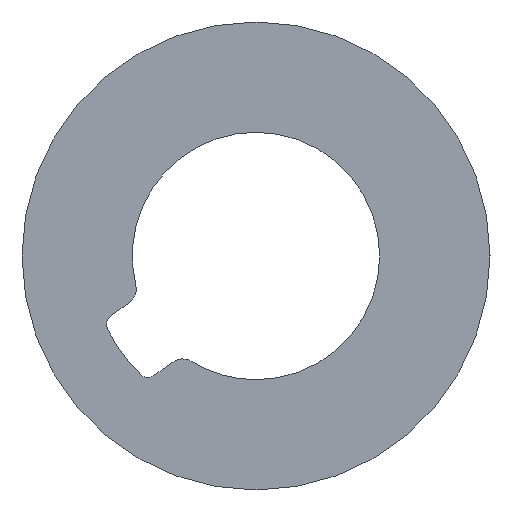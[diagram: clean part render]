
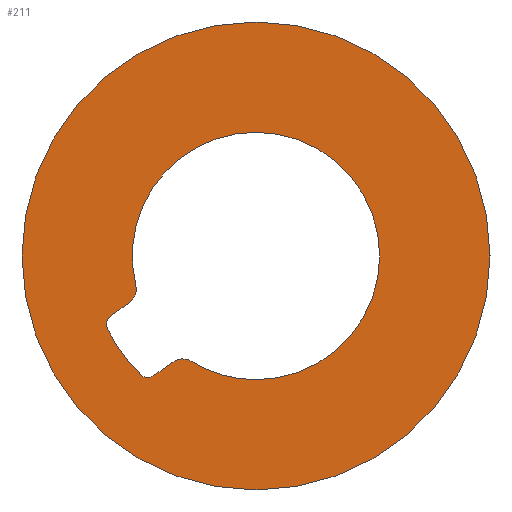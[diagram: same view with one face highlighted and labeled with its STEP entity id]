
A CAD part, left-side view. The second image highlights one B-rep face of the part: STEP entity #211.
In plain terms, the highlighted planar face has unit normal (-1, 0, 0).
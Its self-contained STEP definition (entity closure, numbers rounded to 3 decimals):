
#5 = ORIENTED_EDGE ( 'NONE', *, *, #261, .T. ) ;
#6 = ORIENTED_EDGE ( 'NONE', *, *, #268, .F. ) ;
#7 = ORIENTED_EDGE ( 'NONE', *, *, #288, .F. ) ;
#8 = ORIENTED_EDGE ( 'NONE', *, *, #272, .T. ) ;
#9 = ORIENTED_EDGE ( 'NONE', *, *, #275, .T. ) ;
#10 = ORIENTED_EDGE ( 'NONE', *, *, #289, .T. ) ;
#11 = ORIENTED_EDGE ( 'NONE', *, *, #279, .T. ) ;
#12 = ORIENTED_EDGE ( 'NONE', *, *, #291, .T. ) ;
#17 = ORIENTED_EDGE ( 'NONE', *, *, #293, .T. ) ;
#18 = ORIENTED_EDGE ( 'NONE', *, *, #262, .T. ) ;
#19 = ORIENTED_EDGE ( 'NONE', *, *, #292, .T. ) ;
#22 = ORIENTED_EDGE ( 'NONE', *, *, #294, .T. ) ;
#23 = ORIENTED_EDGE ( 'NONE', *, *, #290, .T. ) ;
#37 = CIRCLE ( 'NONE', #222, 0.3 ) ;
#40 = CIRCLE ( 'NONE', #223, 4.95 ) ;
#43 = CIRCLE ( 'NONE', #224, 0.3 ) ;
#44 = VECTOR ( 'NONE', #472, 1000. ) ;
#48 = CIRCLE ( 'NONE', #228, 0.5 ) ;
#49 = LINE ( 'NONE', #469, #44 ) ;
#50 = CIRCLE ( 'NONE', #232, 0.5 ) ;
#51 = CIRCLE ( 'NONE', #225, 7. ) ;
#65 = CIRCLE ( 'NONE', #234, 3.7 ) ;
#74 = CIRCLE ( 'NONE', #236, 3.7 ) ;
#78 = CIRCLE ( 'NONE', #238, 3.7 ) ;
#87 = CIRCLE ( 'NONE', #240, 7. ) ;
#98 = CIRCLE ( 'NONE', #243, 0.3 ) ;
#101 = VECTOR ( 'NONE', #375, 1000. ) ;
#102 = LINE ( 'NONE', #376, #101 ) ;
#122 = FACE_BOUND ( 'NONE', #146, .T. ) ;
#123 = FACE_OUTER_BOUND ( 'NONE', #147, .T. ) ;
#146 = EDGE_LOOP ( 'NONE', ( #5, #10, #9, #8, #11, #23, #12, #19, #18, #17, #22 ) ) ;
#147 = EDGE_LOOP ( 'NONE', ( #7, #6 ) ) ;
#211 = ADVANCED_FACE ( 'NONE', ( #123, #122 ), #402, .F. ) ;
#222 = AXIS2_PLACEMENT_3D ( 'NONE', #521, #522, #523 ) ;
#223 = AXIS2_PLACEMENT_3D ( 'NONE', #491, #518, #519 ) ;
#224 = AXIS2_PLACEMENT_3D ( 'NONE', #476, #477, #482 ) ;
#225 = AXIS2_PLACEMENT_3D ( 'NONE', #454, #459, #510 ) ;
#228 = AXIS2_PLACEMENT_3D ( 'NONE', #455, #453, #520 ) ;
#232 = AXIS2_PLACEMENT_3D ( 'NONE', #509, #458, #525 ) ;
#234 = AXIS2_PLACEMENT_3D ( 'NONE', #336, #350, #351 ) ;
#236 = AXIS2_PLACEMENT_3D ( 'NONE', #331, #330, #329 ) ;
#238 = AXIS2_PLACEMENT_3D ( 'NONE', #343, #342, #341 ) ;
#240 = AXIS2_PLACEMENT_3D ( 'NONE', #358, #357, #356 ) ;
#243 = AXIS2_PLACEMENT_3D ( 'NONE', #374, #373, #372 ) ;
#248 = AXIS2_PLACEMENT_3D ( 'NONE', #401, #400, #399 ) ;
#261 = EDGE_CURVE ( 'NONE', #394, #391, #102, .T. ) ;
#262 = EDGE_CURVE ( 'NONE', #377, #388, #98, .T. ) ;
#268 = EDGE_CURVE ( 'NONE', #397, #448, #87, .T. ) ;
#272 = EDGE_CURVE ( 'NONE', #315, #325, #78, .T. ) ;
#275 = EDGE_CURVE ( 'NONE', #396, #315, #74, .T. ) ;
#279 = EDGE_CURVE ( 'NONE', #325, #444, #65, .T. ) ;
#288 = EDGE_CURVE ( 'NONE', #448, #397, #51, .T. ) ;
#289 = EDGE_CURVE ( 'NONE', #391, #396, #50, .T. ) ;
#290 = EDGE_CURVE ( 'NONE', #444, #338, #48, .T. ) ;
#291 = EDGE_CURVE ( 'NONE', #338, #349, #49, .T. ) ;
#292 = EDGE_CURVE ( 'NONE', #349, #377, #43, .T. ) ;
#293 = EDGE_CURVE ( 'NONE', #388, #334, #40, .T. ) ;
#294 = EDGE_CURVE ( 'NONE', #334, #394, #37, .T. ) ;
#315 = VERTEX_POINT ( 'NONE', #513 ) ;
#325 = VERTEX_POINT ( 'NONE', #512 ) ;
#329 = DIRECTION ( 'NONE',  ( 0., 0., -1. ) ) ;
#330 = DIRECTION ( 'NONE',  ( 1., 0., 0. ) ) ;
#331 = CARTESIAN_POINT ( 'NONE',  ( -135.5, 0., 0. ) ) ;
#334 = VERTEX_POINT ( 'NONE', #511 ) ;
#336 = CARTESIAN_POINT ( 'NONE',  ( -135.5, 0., 0. ) ) ;
#338 = VERTEX_POINT ( 'NONE', #508 ) ;
#341 = DIRECTION ( 'NONE',  ( 0., 0., -1. ) ) ;
#342 = DIRECTION ( 'NONE',  ( 1., 0., 0. ) ) ;
#343 = CARTESIAN_POINT ( 'NONE',  ( -135.5, 0., 0. ) ) ;
#349 = VERTEX_POINT ( 'NONE', #507 ) ;
#350 = DIRECTION ( 'NONE',  ( 1., 0., 0. ) ) ;
#351 = DIRECTION ( 'NONE',  ( 0., 0., -1. ) ) ;
#356 = DIRECTION ( 'NONE',  ( 0., 0., -1. ) ) ;
#357 = DIRECTION ( 'NONE',  ( 1., 0., 0. ) ) ;
#358 = CARTESIAN_POINT ( 'NONE',  ( -135.5, 0., 0. ) ) ;
#372 = DIRECTION ( 'NONE',  ( 0., 0., 1. ) ) ;
#373 = DIRECTION ( 'NONE',  ( 1., 0., 0. ) ) ;
#374 = CARTESIAN_POINT ( 'NONE',  ( -135.5, 3.236, -3.34 ) ) ;
#375 = DIRECTION ( 'NONE',  ( 0., -0.809, 0.588 ) ) ;
#376 = CARTESIAN_POINT ( 'NONE',  ( -135.5, 3.788, -1.393 ) ) ;
#377 = VERTEX_POINT ( 'NONE', #505 ) ;
#388 = VERTEX_POINT ( 'NONE', #502 ) ;
#391 = VERTEX_POINT ( 'NONE', #501 ) ;
#394 = VERTEX_POINT ( 'NONE', #500 ) ;
#396 = VERTEX_POINT ( 'NONE', #499 ) ;
#397 = VERTEX_POINT ( 'NONE', #498 ) ;
#399 = DIRECTION ( 'NONE',  ( 0., 0., -1. ) ) ;
#400 = DIRECTION ( 'NONE',  ( 1., 0., 0. ) ) ;
#401 = CARTESIAN_POINT ( 'NONE',  ( -135.5, 0., 0. ) ) ;
#402 = PLANE ( 'NONE',  #248 ) ;
#444 = VERTEX_POINT ( 'NONE', #494 ) ;
#448 = VERTEX_POINT ( 'NONE', #489 ) ;
#453 = DIRECTION ( 'NONE',  ( -1., 0., 0. ) ) ;
#454 = CARTESIAN_POINT ( 'NONE',  ( -135.5, 0., 0. ) ) ;
#455 = CARTESIAN_POINT ( 'NONE',  ( -135.5, 2.201, -3.577 ) ) ;
#458 = DIRECTION ( 'NONE',  ( -1., 0., 0. ) ) ;
#459 = DIRECTION ( 'NONE',  ( 1., 0., 0. ) ) ;
#469 = CARTESIAN_POINT ( 'NONE',  ( -135.5, 3.059, -3.582 ) ) ;
#472 = DIRECTION ( 'NONE',  ( 0., 0.809, -0.588 ) ) ;
#476 = CARTESIAN_POINT ( 'NONE',  ( -135.5, 3.236, -3.34 ) ) ;
#477 = DIRECTION ( 'NONE',  ( 1., 0., 0. ) ) ;
#482 = DIRECTION ( 'NONE',  ( 0., 0., 1. ) ) ;
#489 = CARTESIAN_POINT ( 'NONE',  ( -135.5, 0., 7. ) ) ;
#491 = CARTESIAN_POINT ( 'NONE',  ( -135.5, 0., 0. ) ) ;
#494 = CARTESIAN_POINT ( 'NONE',  ( -135.5, 1.939, -3.151 ) ) ;
#498 = CARTESIAN_POINT ( 'NONE',  ( -135.5, 0., -7. ) ) ;
#499 = CARTESIAN_POINT ( 'NONE',  ( -135.5, 3.596, -0.87 ) ) ;
#500 = CARTESIAN_POINT ( 'NONE',  ( -135.5, 4.352, -1.803 ) ) ;
#501 = CARTESIAN_POINT ( 'NONE',  ( -135.5, 3.788, -1.393 ) ) ;
#502 = CARTESIAN_POINT ( 'NONE',  ( -135.5, 3.444, -3.555 ) ) ;
#505 = CARTESIAN_POINT ( 'NONE',  ( -135.5, 3.236, -3.64 ) ) ;
#507 = CARTESIAN_POINT ( 'NONE',  ( -135.5, 3.059, -3.582 ) ) ;
#508 = CARTESIAN_POINT ( 'NONE',  ( -135.5, 2.495, -3.172 ) ) ;
#509 = CARTESIAN_POINT ( 'NONE',  ( -135.5, 4.082, -0.988 ) ) ;
#510 = DIRECTION ( 'NONE',  ( 0., 0., -1. ) ) ;
#511 = CARTESIAN_POINT ( 'NONE',  ( -135.5, 4.445, -2.177 ) ) ;
#512 = CARTESIAN_POINT ( 'NONE',  ( -135.5, 0., -3.7 ) ) ;
#513 = CARTESIAN_POINT ( 'NONE',  ( -135.5, 0., 3.7 ) ) ;
#518 = DIRECTION ( 'NONE',  ( 1., 0., 0. ) ) ;
#519 = DIRECTION ( 'NONE',  ( 0., 0., 1. ) ) ;
#520 = DIRECTION ( 'NONE',  ( 0., 0., -1. ) ) ;
#521 = CARTESIAN_POINT ( 'NONE',  ( -135.5, 4.176, -2.045 ) ) ;
#522 = DIRECTION ( 'NONE',  ( 1., 0., 0. ) ) ;
#523 = DIRECTION ( 'NONE',  ( 0., 0., -1. ) ) ;
#525 = DIRECTION ( 'NONE',  ( 0., 0., 1. ) ) ;
